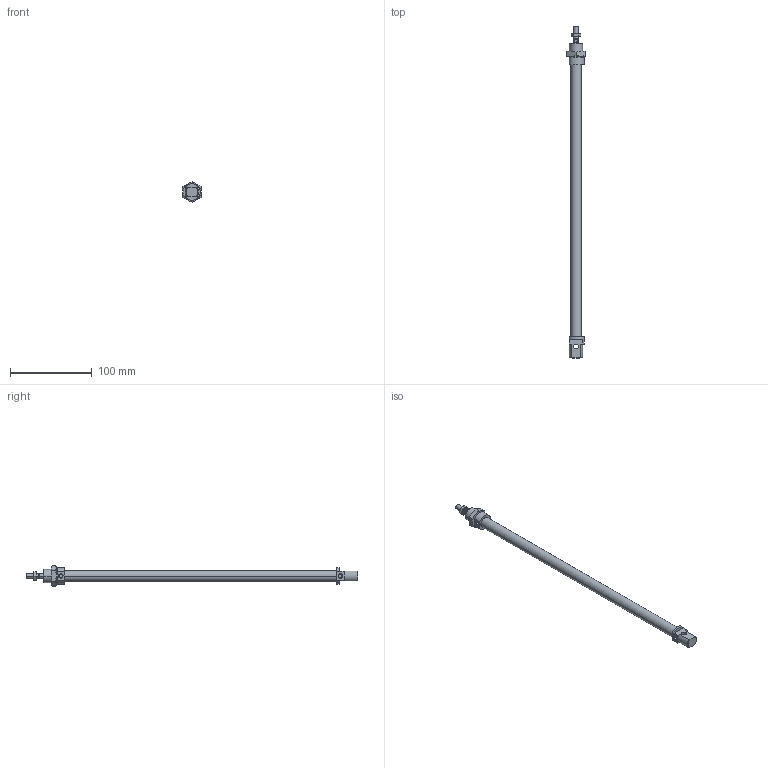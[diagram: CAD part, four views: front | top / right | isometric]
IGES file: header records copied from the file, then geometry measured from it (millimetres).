
Global section: file name: No Iges File Name specified; native system: Autodesk Inventor 2010; preprocessor: AutoDesk Inventor Iges Exporter R2010; author: rivolro1; date: 20090604.093203; units: millimetre
Bounding box: 22 x 405 x 25.4 mm (x, y, z)
Volume: 58485.7 mm3; surface area: 31955.7 mm2
Topology: 4 solids, 4 shells, 107 faces, 236 edges, 144 vertices
Faces by surface type: plane 39, cone 28, bspline 20, cylinder 14, revolution 6
